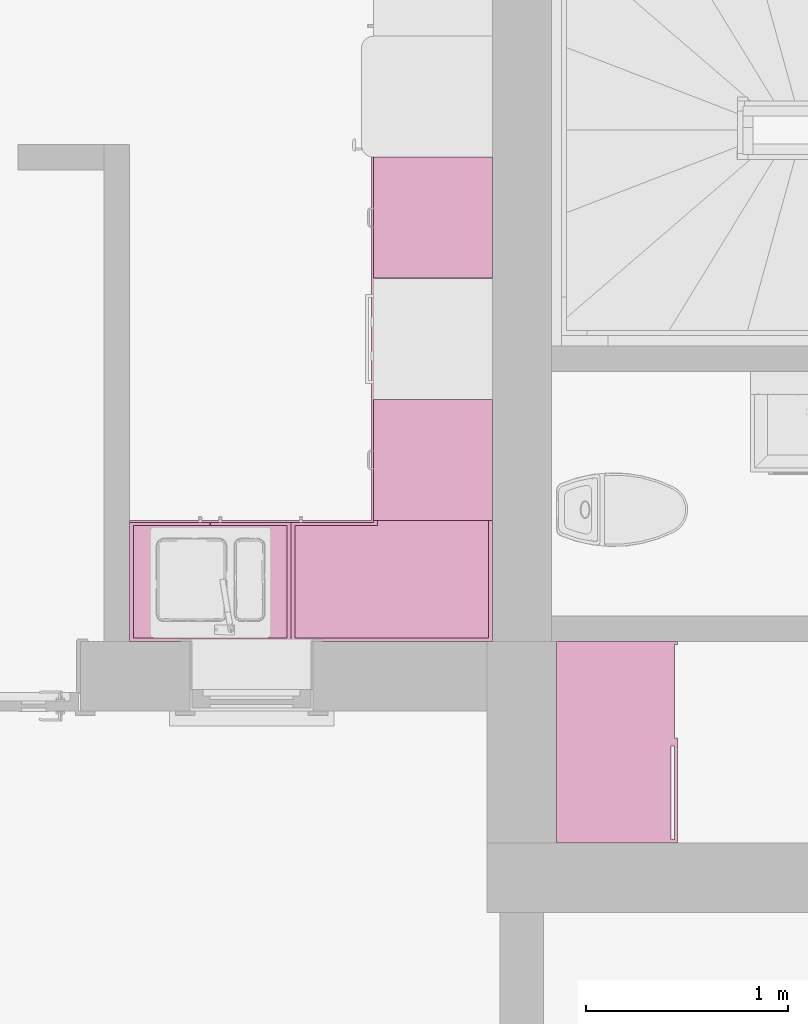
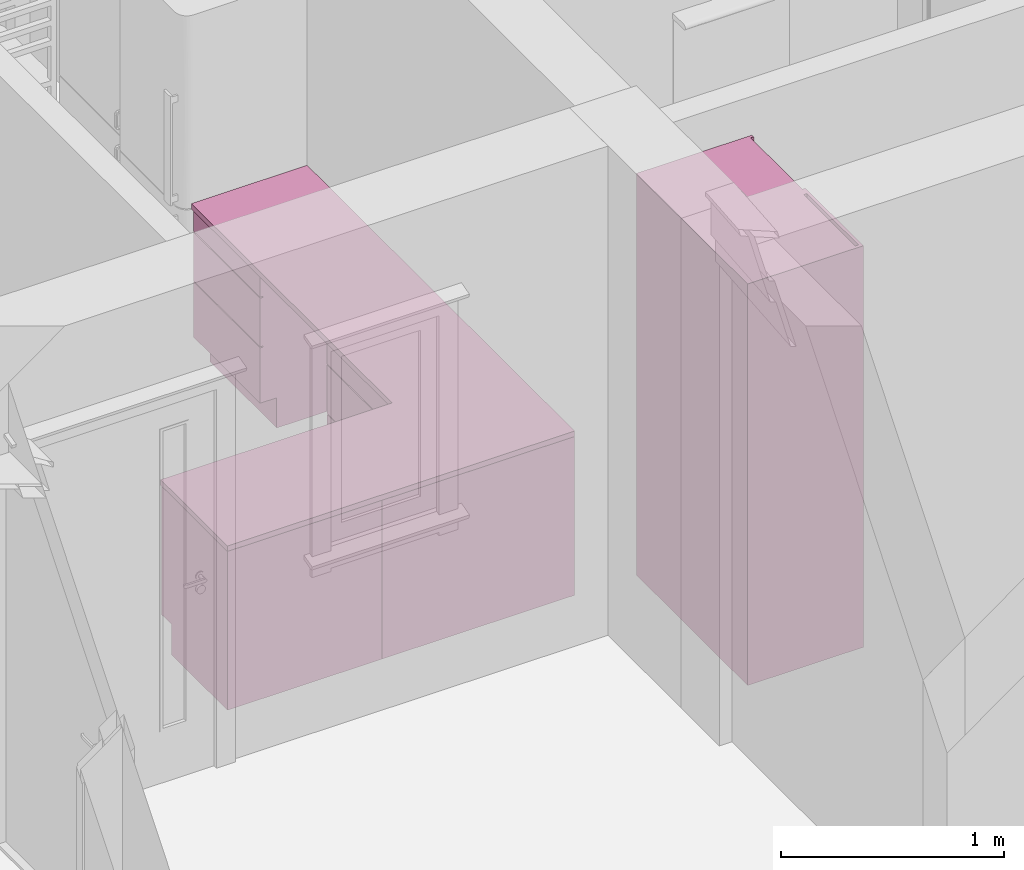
# One storey, part 34 of 65: 6 furnishings.
"""IFC2X3 building model written with IfcOpenShell, lengths in millimetres."""

import ifcopenshell
import ifcopenshell.guid

model = None  # the IFC model being written
_history = None  # IfcOwnerHistory: only IFC2X3 demands one
_inside = {}  # id of a spatial element -> (the spatial element, [elements in it])
_under = {}  # id of a project, library or spatial element -> (it, [spatial elements below it])
_declared = {}  # id of a project -> (the project, [libraries it declares])
_typed = {}  # id of a type object -> (the type object, [elements of that type])
_made_of = {}  # id of a material, layer set ... -> (it, [elements and type objects made of it])


def new_model(schema):
    """Start an empty IFC model of exactly this schema.

    Asked for "IFC4X3", IfcOpenShell would pick the latest addendum, in which some entities
    have other attributes; the version numbers below select the first issue.
    IFC2X3 requires an IfcOwnerHistory on every rooted entity: one is made here for all.
    """
    global model, _history
    if schema == "IFC4X3":
        model = ifcopenshell.file(schema_version=(4, 3, 0, 0))
    else:
        model = ifcopenshell.file(schema=schema)
    _inside.clear()
    _under.clear()
    _declared.clear()
    _typed.clear()
    _made_of.clear()
    _history = None
    if model.schema == "IFC2X3":
        org = make("IfcOrganization", Name="unknown")
        user = make(
            "IfcPersonAndOrganization",
            ThePerson=make("IfcPerson", FamilyName="unknown"),
            TheOrganization=org,
        )
        app = make(
            "IfcApplication",
            ApplicationDeveloper=org,
            Version="unknown",
            ApplicationFullName="unknown",
            ApplicationIdentifier="unknown",
        )
        _history = make(
            "IfcOwnerHistory",
            OwningUser=user,
            OwningApplication=app,
            ChangeAction="ADDED",
            CreationDate=0,
        )
    return model


def make(cls, **values):
    """One entity of the class cls with the attributes given. An attribute that is None is left unset."""
    return model.create_entity(
        cls, **{name: value for name, value in values.items() if value is not None}
    )


def entity(cls, *values):
    """Any entity or typed value of the class cls, its attributes in the order of the schema. None: left unset."""
    e = model.create_entity(cls)
    for i, value in enumerate(values):
        if value is not None:
            e[i] = value
    return e


def rooted(cls, **values):
    """An entity with a GlobalId (a new one), such as an element, a storey or a relation."""
    return make(cls, GlobalId=ifcopenshell.guid.new(), OwnerHistory=_history, **values)


def si_unit(unit_type, name, prefix=None):
    """IfcSIUnit, for example si_unit("LENGTHUNIT", "METRE", prefix="MILLI")."""
    return make("IfcSIUnit", UnitType=unit_type, Prefix=prefix, Name=name)


def converted_unit(unit_type, name, factor, base, dimensions=None, offset=None):
    """IfcConversionBasedUnit, such as the inch: factor (a typed value) times the base unit."""
    return make(
        "IfcConversionBasedUnit"
        if offset is None
        else "IfcConversionBasedUnitWithOffset",
        ConversionOffset=offset,
        Dimensions=None
        if dimensions is None
        else entity("IfcDimensionalExponents", *dimensions),
        UnitType=unit_type,
        Name=name,
        ConversionFactor=make(
            "IfcMeasureWithUnit", ValueComponent=factor, UnitComponent=base
        ),
    )


def assignment(units):
    """IfcUnitAssignment: the units of a project."""
    return None if units is None else make("IfcUnitAssignment", Units=units)


def point(xyz):
    """IfcCartesianPoint."""
    return None if xyz is None else make("IfcCartesianPoint", Coordinates=xyz)


def direction(xyz):
    """IfcDirection."""
    return None if xyz is None else make("IfcDirection", DirectionRatios=xyz)


def frame(location, z_axis=None, x_axis=None):
    """IfcAxis2Placement3D, a coordinate frame: its origin and axes. An axis left out is left unset."""
    return make(
        "IfcAxis2Placement3D",
        Location=point(location),
        Axis=direction(z_axis),
        RefDirection=direction(x_axis),
    )


def frame_2d(location, x_axis=None):
    """IfcAxis2Placement2D, a coordinate frame in the plane: its origin and x axis."""
    return make(
        "IfcAxis2Placement2D", Location=point(location), RefDirection=direction(x_axis)
    )


def origin():
    """The frame at (0, 0, 0) with its axes left unset."""
    return frame((0.0, 0.0, 0.0))


def place(relative_to, where):
    """IfcLocalPlacement: puts the frame where relative to a parent placement (None: the world)."""
    return make(
        "IfcLocalPlacement", PlacementRelTo=relative_to, RelativePlacement=where
    )


def context(
    kind, dimensions, precision=None, world=None, true_north=None, identifier=None
):
    """IfcGeometricRepresentationContext, for example the 3D "Model" context."""
    return make(
        "IfcGeometricRepresentationContext",
        ContextIdentifier=identifier,
        ContextType=kind,
        CoordinateSpaceDimension=dimensions,
        Precision=precision,
        WorldCoordinateSystem=world,
        TrueNorth=true_north,
    )


def subcontext(parent, identifier, kind, view, scale=None):
    """IfcGeometricRepresentationSubContext, for example "Body" below "Model"."""
    return make(
        "IfcGeometricRepresentationSubContext",
        ContextIdentifier=identifier,
        ContextType=kind,
        ParentContext=parent,
        TargetScale=scale,
        TargetView=view,
    )


def project(units=None, contexts=None):
    """IfcProject with its units and contexts."""
    return rooted(
        "IfcProject",
        Name="project",
        RepresentationContexts=contexts,
        UnitsInContext=assignment(units),
    )


def spatial(cls, under=None, at=None, **own):
    """A site, building, storey or space (cls), placed at a placement, below another one or the project."""
    s = rooted(cls, ObjectPlacement=at, **own)
    if under is not None:
        _under.setdefault(under.id(), (under, []))[1].append(s)
    return s


def polyline(points):
    """IfcPolyline through the points."""
    return make("IfcPolyline", Points=[point(p) for p in points])


def profile(cls, at=None, kind="AREA", **sizes):
    """A parametric profile (cls). Its sizes go by their IFC names, for example OverallWidth=200.0."""
    return make(cls, ProfileType=kind, Position=at, **sizes)


def rectangle(**sizes):
    """IfcRectangleProfileDef."""
    return profile("IfcRectangleProfileDef", **sizes)


def outline(outer, holes=None, kind="AREA"):
    """IfcArbitraryClosedProfileDef: a profile drawn as a closed curve; with holes, ...WithVoids."""
    if holes is None:
        return make("IfcArbitraryClosedProfileDef", ProfileType=kind, OuterCurve=outer)
    return make(
        "IfcArbitraryProfileDefWithVoids",
        ProfileType=kind,
        OuterCurve=outer,
        InnerCurves=holes,
    )


def extrude(swept, where, along, depth):
    """IfcExtrudedAreaSolid: the profile swept, set in the frame where, extruded along a direction by depth."""
    return make(
        "IfcExtrudedAreaSolid",
        SweptArea=swept,
        Position=where,
        ExtrudedDirection=direction(along),
        Depth=depth,
    )


def faces_of(points, faces, orient=None, outer=None):
    """IfcFace entities. A face is a list of loops; a loop is a list of indices into points, from 0.

    orient and outer hold one flag for each loop. By default every Orientation is true, the
    first loop of a face is its IfcFaceOuterBound and the others are IfcFaceBound.
    """
    made = []
    for i, loops in enumerate(faces):
        bounds = []
        for j, loop in enumerate(loops):
            is_outer = j == 0 if outer is None else outer[i][j]
            bounds.append(
                make(
                    "IfcFaceOuterBound" if is_outer else "IfcFaceBound",
                    Bound=make("IfcPolyLoop", Polygon=[points[k] for k in loop]),
                    Orientation=True if orient is None else orient[i][j],
                )
            )
        made.append(make("IfcFace", Bounds=bounds))
    return made


def faceted_brep(points, faces, orient=None, outer=None, voids=None):
    """IfcFacetedBrep: a solid bounded by flat faces; with voids (closed shells), ...WithVoids."""
    shared = [point(p) for p in points]
    hull = make("IfcClosedShell", CfsFaces=faces_of(shared, faces, orient, outer))
    if voids is None:
        return make("IfcFacetedBrep", Outer=hull)
    return make(
        "IfcFacetedBrepWithVoids",
        Outer=hull,
        Voids=[
            make(cls, CfsFaces=faces_of(shared, fs, o, b)) for cls, fs, o, b in voids
        ],
    )


def shape(context_of_items, identifier, shape_type, items):
    """IfcShapeRepresentation: the items that make up one representation, for example the "Body"."""
    return make(
        "IfcShapeRepresentation",
        ContextOfItems=context_of_items,
        RepresentationIdentifier=identifier,
        RepresentationType=shape_type,
        Items=items,
    )


def source(mapping_origin, context_of_items, identifier, shape_type, items):
    """IfcRepresentationMap: a shape defined once, which mapped items show again and again."""
    return make(
        "IfcRepresentationMap",
        MappingOrigin=mapping_origin,
        MappedRepresentation=shape(context_of_items, identifier, shape_type, items),
    )


def transform(
    local_origin,
    x_axis=None,
    y_axis=None,
    z_axis=None,
    scale=None,
    scale2=None,
    scale3=None,
    uniform=True,
):
    """IfcCartesianTransformationOperator3D, or its non-uniform kind. x_axis, y_axis, z_axis: its Axis1, 2, 3."""
    if uniform:
        return make(
            "IfcCartesianTransformationOperator3D",
            Axis1=direction(x_axis),
            Axis2=direction(y_axis),
            LocalOrigin=point(local_origin),
            Scale=scale,
            Axis3=direction(z_axis),
        )
    return make(
        "IfcCartesianTransformationOperator3DnonUniform",
        Axis1=direction(x_axis),
        Axis2=direction(y_axis),
        LocalOrigin=point(local_origin),
        Scale=scale,
        Axis3=direction(z_axis),
        Scale2=scale2,
        Scale3=scale3,
    )


def mapped(mapping_source, mapping_target):
    """IfcMappedItem: shows the shape of a source again, moved by a transform."""
    return make(
        "IfcMappedItem", MappingSource=mapping_source, MappingTarget=mapping_target
    )


def material(Name=None, Category=None):
    """IfcMaterial."""
    return make("IfcMaterial", Name=Name, Category=Category)


def material_list(materials):
    """IfcMaterialList."""
    return make("IfcMaterialList", Materials=materials)


def made_of(thing, what):
    """Note that an element or type object is made of a material, layer set ...; save() writes the relation."""
    if what is not None:
        _made_of.setdefault(what.id(), (what, []))[1].append(thing)
    return thing


def type_object(cls, material=None, **own):
    """A type object (cls), such as IfcWallType, which elements share."""
    return made_of(rooted(cls, **own), material)


def type_shapes(of_type, sources):
    """Give a type object the sources (RepresentationMaps) that its elements show as mapped items."""
    of_type.RepresentationMaps = sources


def element(
    cls,
    number,
    at=None,
    inside=None,
    cuts=None,
    type_object=None,
    material=None,
    context=None,
    identifier="Body",
    shape_type=None,
    held_by="IfcProductDefinitionShape",
    body=None,
    shapes=None,
    **own,
):
    """One element of the class cls, such as IfcWall. Its Tag is "e" and its number.

    at: its placement. inside: the storey or other place that contains it. cuts: it is an
    opening in that element (IfcRelVoidsElement). A single representation is given by context,
    identifier, shape_type and body (its items); several are given by shapes. held_by: the class
    of the entity that holds the representations. save() writes the other relations.
    """
    e = rooted(cls, Tag="e%d" % number, ObjectPlacement=at, **own)
    if body is not None:
        shapes = [shape(context, identifier, shape_type, body)]
    if shapes is not None:
        e.Representation = make(held_by, Representations=shapes)
    if inside is not None:
        _inside.setdefault(inside.id(), (inside, []))[1].append(e)
    if cuts is not None:
        rooted(
            "IfcRelVoidsElement", RelatingBuildingElement=cuts, RelatedOpeningElement=e
        )
    if type_object is not None:
        _typed.setdefault(type_object.id(), (type_object, []))[1].append(e)
    return made_of(e, material)


def aggregate(whole, parts):
    """IfcRelAggregates: a whole, such as a stair, and the parts it consists of."""
    return rooted("IfcRelAggregates", RelatingObject=whole, RelatedObjects=parts)


def save(model, path):
    """Write the relations noted so far, then the file.

    IfcRelAggregates (storeys below a building ...), IfcRelContainedInSpatialStructure (elements
    in a storey), IfcRelDefinesByType, IfcRelAssociatesMaterial and IfcRelDeclares: one each for
    every whole, place, type object, material and project.
    """
    for whole, parts in _under.values():
        aggregate(whole, parts)
    for where, things in _inside.values():
        rooted(
            "IfcRelContainedInSpatialStructure",
            RelatedElements=things,
            RelatingStructure=where,
        )
    for kind, things in _typed.values():
        rooted("IfcRelDefinesByType", RelatedObjects=things, RelatingType=kind)
    for what, things in _made_of.values():
        rooted("IfcRelAssociatesMaterial", RelatedObjects=things, RelatingMaterial=what)
    for by, libraries in _declared.values():
        rooted("IfcRelDeclares", RelatingContext=by, RelatedDefinitions=libraries)
    model.write(path)


model = new_model("IFC2X3")

# Units and contexts
model_context = context("Model", 3, precision=0.01, world=origin(), true_north=direction((0.0, 1.0)))
body_context = subcontext(model_context, "Body", "Model", "MODEL_VIEW")
ifc_project = project(units=[si_unit("LENGTHUNIT", "METRE", prefix="MILLI"), si_unit("AREAUNIT", "SQUARE_METRE"), si_unit("VOLUMEUNIT", "CUBIC_METRE"), converted_unit("PLANEANGLEUNIT", "DEGREE", entity("IfcPlaneAngleMeasure", 0.017453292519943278), si_unit("PLANEANGLEUNIT", "RADIAN"), dimensions=[0, 0, 0, 0, 0, 0, 0])], contexts=[model_context])

# Site, building, storey, space
site_placement = place(None, origin())
site = spatial("IfcSite", under=ifc_project, at=site_placement, Name="Default", CompositionType="ELEMENT")
building_placement = place(site_placement, origin())
building = spatial("IfcBuilding", under=site, at=building_placement, CompositionType="ELEMENT")
storey_placement = place(building_placement, origin())
storey = spatial("IfcBuildingStorey", under=building, at=storey_placement, Name="Et. 1", CompositionType="ELEMENT", Elevation=0.0)
space_1_placement = place(storey_placement, origin())
space_1 = spatial("IfcSpace", under=storey, at=space_1_placement, Name="107", CompositionType="ELEMENT", InteriorOrExteriorSpace="INTERNAL")

# Furnishing
ifc_material_1 = material(Name="Møbler - Hvit")
furniture_type_1 = type_object("IfcFurnitureType", Name="Focus Garderobeskap - Skyvedører 2 slette:100x60x220", AssemblyPlace="NOTDEFINED", material=ifc_material_1)
shared_shape_1 = source(origin(), body_context, "Body", "SweptSolid", [
    extrude(rectangle(XDim=16.000000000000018, YDim=504.0000000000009, at=frame_2d((0.0, 4.263256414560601e-14), x_axis=(1.0, 0.0))), frame((232.0, 292.0, 10.0), z_axis=(0.0, 0.0, 1.0), x_axis=(0.0, 1.0, 0.0)), (0.0, 0.0, 1.0), 2189.9999999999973),
    extrude(rectangle(XDim=16.000000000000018, YDim=504.00000000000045, at=frame_2d((0.0, 4.263256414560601e-14), x_axis=(1.0, 0.0))), frame((-232.0, 276.0, 10.0), z_axis=(0.0, 0.0, 1.0), x_axis=(0.0, 1.0, 0.0)), (0.0, 0.0, 1.0), 2189.9999999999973),
    extrude(outline(polyline([(-442.0, -500.0), (158.0, -500.0), (158.0, -484.0), (126.0, -484.0), (126.0, 484.0), (158.0, 484.0), (158.0, 500.0), (-442.0, 500.0), (-442.0, -500.0)])), frame((0.0, 142.0, 0.0), z_axis=(0.0, 0.0, 1.0), x_axis=(0.0, 1.0, 0.0)), (0.0, 0.0, 1.0), 2200.0000000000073),
])
type_shapes(furniture_type_1, [shared_shape_1])
furnishing_1_placement = place(space_1_placement, frame((16651.00958675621, 11254.180957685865, 0.0), z_axis=(0.0, 0.0, 1.0), x_axis=(0.0, -1.0, 0.0)))
element("IfcFurnishingElement", 1, at=furnishing_1_placement, inside=space_1, type_object=furniture_type_1, material=ifc_material_1, Name="Focus Garderobeskap - Skyvedører 2 slette:100x60x220", context=body_context, shape_type="MappedRepresentation", body=[
    mapped(shared_shape_1, transform((0.0, 0.0, 0.0), scale=1.0)),
])

# Space
space_2_placement = place(storey_placement, origin())
space_2 = spatial("IfcSpace", under=storey, at=space_2_placement, Name="101", CompositionType="ELEMENT", InteriorOrExteriorSpace="INTERNAL")

# Furnishings
ifc_material_2 = material(Name="Focus - Kjøkken - Front")
ifc_material_3 = material(Name="Focus - Kjøkken - Skapstamme")
ifc_material_list = material_list([ifc_material_2, ifc_material_3])
furniture_type_2 = type_object("IfcFurnitureType", Name="Focus - Kjøkken - Benkeskap 3 skuffer:600 mm", AssemblyPlace="NOTDEFINED", material=ifc_material_list)
shared_shape_2 = source(origin(), body_context, "Body", "SweptSolid", [
    extrude(rectangle(XDim=600.0, YDim=503.99999999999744, at=frame_2d((-2.842170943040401e-14, -2.842170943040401e-14), x_axis=(1.0, 0.0))), frame((-254.58506095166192, 499.8168112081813, 0.0), z_axis=(0.0, 0.0, 1.0), x_axis=(-1.0, 0.0, 0.0)), (0.0, 0.0, 1.0), 165.99999999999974),
    extrude(rectangle(XDim=16.000000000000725, YDim=600.0000000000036, at=frame_2d((0.0, 2.842170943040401e-14), x_axis=(1.0, 0.0))), frame((-254.58506095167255, 169.81681120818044, 747.0), z_axis=(0.0, 0.0, 1.0), x_axis=(0.0, -1.0, 0.0)), (0.0, 0.0, 1.0), 122.99999999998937),
    extrude(rectangle(XDim=16.000000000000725, YDim=600.0, at=frame_2d((0.0, 2.842170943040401e-14), x_axis=(1.0, 0.0))), frame((-254.58506095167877, 169.81681120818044, 166.0), z_axis=(0.0, 0.0, 1.0), x_axis=(0.0, -1.0, 0.0)), (0.0, 0.0, 1.0), 303.0000000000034),
    extrude(rectangle(XDim=16.000000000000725, YDim=599.9999999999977, at=frame_2d((0.0, 2.842170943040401e-14), x_axis=(1.0, 0.0))), frame((-254.58506095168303, 169.81681120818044, 475.0), z_axis=(0.0, 0.0, 1.0), x_axis=(0.0, -1.0, 0.0)), (0.0, 0.0, 1.0), 265.9999999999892),
    extrude(rectangle(XDim=573.9999999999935, YDim=599.9999999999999, at=frame_2d((-90.33333333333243, 2.842170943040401e-14), x_axis=(1.0, 0.0))), frame((-254.5850609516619, 555.1501445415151, 166.0), z_axis=(0.0, 0.0, 1.0), x_axis=(0.0, 1.0, 0.0)), (0.0, 0.0, 1.0), 704.0000000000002),
])
type_shapes(furniture_type_2, [shared_shape_2])
for number, where, z_axis, x_axis in (
    (2, (15280.192775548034, 12399.595896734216, 0.0), (0.0, 0.0, 1.0), (0.0, -1.0, 0.0)),
    (3, (15280.19277554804, 13601.473658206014, 0.0), (0.0, 0.0, 1.0), (0.0, -1.0, 0.0)),
):
    element("IfcFurnishingElement", number, at=place(space_2_placement, frame(where, z_axis=z_axis, x_axis=x_axis)), inside=space_2, type_object=furniture_type_2, material=ifc_material_list, Name="Focus - Kjøkken - Benkeskap 3 skuffer:600 mm", context=body_context, shape_type="MappedRepresentation", body=[
        mapped(shared_shape_2, transform((0.0, 0.0, 0.0), scale=1.0)),
    ])
furniture_type_3 = type_object("IfcFurnitureType", Name="Focus - Kjøkken - Benkeskap  2  dører:800 mm", AssemblyPlace="NOTDEFINED", material=ifc_material_list)
shared_shape_3 = source(origin(), body_context, "Body", "Brep", [
    faceted_brep([(145.41493904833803, 751.8168112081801, 166.0), (-654.5850609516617, 751.8168112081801, 166.0), (-654.5850609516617, 247.8168112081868, 166.0), (145.41493904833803, 247.8168112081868, 166.0), (145.41493904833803, 751.8168112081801, 0.0), (145.41493904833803, 247.8168112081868, 0.0), (-654.5850609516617, 247.8168112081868, 0.0), (-654.5850609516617, 751.8168112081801, 0.0)], [[[0, 1, 2, 3]], [[4, 5, 6, 7]], [[1, 0, 4, 7]], [[2, 1, 7, 6]], [[3, 2, 6, 5]], [[0, 3, 5, 4]]]),
    faceted_brep([(-253.58506095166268, 177.81681120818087, 870.0), (145.41493904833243, 177.8168112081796, 870.0), (145.41493904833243, 177.8168112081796, 166.0), (-253.58506095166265, 177.81681120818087, 166.0), (-253.58506095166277, 161.81681120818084, 870.0), (-253.5850609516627, 161.81681120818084, 166.0), (145.41493904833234, 161.81681120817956, 166.0), (145.41493904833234, 161.81681120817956, 870.0)], [[[0, 1, 2, 3]], [[4, 5, 6, 7]], [[1, 0, 4, 7]], [[2, 1, 7, 6]], [[3, 2, 6, 5]], [[0, 3, 5, 4]]]),
    faceted_brep([(-255.58506095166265, 177.81681120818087, 166.0), (-255.58506095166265, 177.81681120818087, 870.0), (-255.5850609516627, 161.81681120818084, 870.0), (-255.5850609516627, 161.81681120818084, 166.0), (-654.5850609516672, 177.81681120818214, 166.0), (-654.5850609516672, 161.81681120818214, 166.0), (-654.5850609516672, 177.81681120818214, 870.0), (-654.5850609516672, 161.81681120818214, 870.0)], [[[0, 1, 2, 3]], [[4, 0, 3, 5]], [[6, 4, 5, 7]], [[1, 6, 7, 2]], [[2, 7, 5, 3]], [[1, 0, 4, 6]]]),
    faceted_brep([(-654.5850609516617, 177.81681120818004, 870.0), (-654.5850609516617, 177.81681120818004, 166.0), (145.41493904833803, 177.81681120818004, 166.0), (145.41493904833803, 177.81681120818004, 870.0), (125.41493904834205, 177.81681120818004, 870.0), (125.41493904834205, 177.81681120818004, 186.0), (-634.5850609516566, 177.81681120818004, 186.0), (-634.5850609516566, 177.81681120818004, 870.0), (145.41493904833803, 751.8168112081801, 870.0), (145.41493904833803, 751.8168112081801, 166.0), (-654.5850609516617, 751.8168112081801, 166.0), (-654.5850609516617, 751.8168112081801, 870.0), (-654.5850609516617, 735.8168112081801, 166.0), (145.41493904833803, 735.8168112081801, 166.0), (-634.5850609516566, 735.8168112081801, 870.0), (125.41493904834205, 735.8168112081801, 870.0), (125.41493904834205, 735.8168112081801, 186.0), (-634.5850609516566, 735.8168112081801, 186.0)], [[[0, 1, 2, 3, 4, 5, 6, 7]], [[8, 9, 10, 11]], [[1, 0, 11, 10, 12]], [[2, 1, 12, 10, 9, 13]], [[8, 3, 2, 13, 9]], [[4, 3, 8, 11, 0, 7, 14, 15]], [[5, 4, 15, 16]], [[6, 5, 16, 17]], [[7, 6, 17, 14]], [[15, 14, 17, 16]]]),
])
type_shapes(furniture_type_3, [shared_shape_3])
furnishing_2_placement = place(space_2_placement, frame((14377.424525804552, 12505.997768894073, 0.0), z_axis=(0.0, 0.0, 1.0), x_axis=(-1.0, 0.0, 0.0)))
element("IfcFurnishingElement", 4, at=furnishing_2_placement, inside=space_2, type_object=furniture_type_3, material=ifc_material_list, Name="Focus - Kjøkken - Benkeskap  2  dører:800 mm", context=body_context, shape_type="MappedRepresentation", body=[
    mapped(shared_shape_3, transform((0.0, 0.0, 0.0), scale=1.0)),
])
furniture_type_4 = type_object("IfcFurnitureType", Name="Focus - Kjøkken - Benkeskap  Hjørne:1000x650 mm", AssemblyPlace="NOTDEFINED", material=ifc_material_list)
shared_shape_4 = source(origin(), body_context, "Body", "Brep", [
    faceted_brep([(-7.185060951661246, 751.8168112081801, 166.0), (-1007.1850609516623, 751.8168112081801, 166.0), (-1007.1850609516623, 101.81681120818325, 166.0), (-503.1850609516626, 101.81681120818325, 166.0), (-503.1850609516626, 247.81681120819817, 166.0), (-7.185060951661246, 247.81681120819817, 166.0), (-7.185060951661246, 751.8168112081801, 0.0), (-7.185060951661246, 247.81681120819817, 0.0), (-503.1850609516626, 247.81681120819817, 0.0), (-503.1850609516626, 101.81681120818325, 0.0), (-1007.1850609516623, 101.81681120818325, 0.0), (-1007.1850609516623, 751.8168112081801, 0.0)], [[[0, 1, 2, 3, 4, 5]], [[6, 7, 8, 9, 10, 11]], [[1, 0, 6, 11]], [[2, 1, 11, 10]], [[3, 2, 10, 9]], [[4, 3, 9, 8]], [[5, 4, 8, 7]], [[0, 5, 7, 6]]]),
    faceted_brep([(-7.18506095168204, 177.81681120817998, 870.0), (-7.185060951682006, 177.81681120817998, 166.0), (-392.18506095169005, 177.8168112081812, 166.0), (-392.1850609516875, 177.8168112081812, 870.0), (-7.185060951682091, 161.81681120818, 870.0), (-392.18506095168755, 161.8168112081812, 870.0), (-392.1850609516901, 161.8168112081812, 166.0), (-7.185060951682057, 161.81681120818, 166.0)], [[[0, 1, 2, 3]], [[4, 5, 6, 7]], [[1, 0, 4, 7]], [[2, 1, 7, 6]], [[3, 2, 6, 5]], [[0, 3, 5, 4]]]),
    faceted_brep([(-7.185060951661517, 177.81681120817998, 166.0), (-7.185060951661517, 177.81681120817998, 870.0), (-27.18506095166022, 177.81681120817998, 870.0), (-27.18506095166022, 177.81681120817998, 190.0), (-392.1850609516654, 177.81681120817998, 190.0), (-392.1850609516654, 177.81681120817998, 166.0), (-7.185060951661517, 751.8168112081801, 870.0), (-7.185060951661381, 751.8168112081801, 166.0), (-1007.185060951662, 751.8168112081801, 166.0), (-1007.1850609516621, 751.8168112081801, 870.0), (-1007.1850609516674, 101.81681120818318, 870.0), (-417.18506095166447, 101.81681120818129, 870.0), (-417.1850609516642, 161.81681120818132, 870.0), (-392.18506095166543, 161.81681120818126, 870.0), (-392.1850609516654, 177.81681120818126, 870.0), (-437.18506095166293, 177.8168112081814, 870.0), (-437.18506095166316, 117.81681120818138, 870.0), (-987.1850609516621, 117.81681120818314, 870.0), (-987.1850609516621, 735.8168112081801, 870.0), (-27.18506095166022, 735.8168112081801, 870.0), (-1007.185060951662, 101.81681120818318, 166.0), (-392.1850609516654, 161.81681120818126, 166.0), (-417.1850609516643, 161.81681120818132, 166.0), (-417.18506095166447, 101.81681120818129, 166.0), (-27.185060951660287, 735.8168112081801, 190.0), (-987.1850609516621, 735.8168112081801, 190.0), (-987.1850609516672, 117.81681120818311, 190.0), (-437.1850609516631, 117.81681120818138, 190.0), (-437.18506095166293, 177.8168112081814, 190.0)], [[[0, 1, 2, 3, 4, 5]], [[6, 7, 8, 9]], [[2, 1, 6, 9, 10, 11, 12, 13, 14, 15, 16, 17, 18, 19]], [[9, 8, 20, 10]], [[8, 7, 0, 5, 21, 22, 23, 20]], [[1, 0, 7, 6]], [[3, 2, 19, 24]], [[3, 24, 25, 26, 27, 28, 4]], [[25, 18, 17, 26]], [[19, 18, 25, 24]], [[28, 15, 14, 4]], [[10, 20, 23, 11]], [[15, 28, 27, 16]], [[11, 23, 22, 12]], [[17, 16, 27, 26]], [[13, 12, 22, 21]], [[13, 21, 5, 4, 14]]]),
])
type_shapes(furniture_type_4, [shared_shape_4])
furnishing_3_placement = place(space_2_placement, frame((15024.824525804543, 12505.99776889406, 0.0), z_axis=(0.0, 0.0, 1.0), x_axis=(-1.0, 0.0, 0.0)))
element("IfcFurnishingElement", 5, at=furnishing_3_placement, inside=space_2, type_object=furniture_type_4, material=ifc_material_list, Name="Focus - Kjøkken - Benkeskap  Hjørne:1000x650 mm", context=body_context, shape_type="MappedRepresentation", body=[
    mapped(shared_shape_4, transform((0.0, 0.0, 0.0), scale=1.0)),
])
ifc_material_4 = material(Name="Focus - Material - Benkeplate")
furniture_type_5 = type_object("IfcFurnitureType", Name="Focus - Kjøkken - Benkeplate Hjørne:Focus - Kjøkken - Benkeplate Hjørne", AssemblyPlace="NOTDEFINED", material=ifc_material_4)
shared_shape_5 = source(origin(), body_context, "Body", "SweptSolid", [
    extrude(outline(polyline([(-1000.6259204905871, -800.0), (1401.251840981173, -800.0), (1401.251840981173, -200.0), (-400.6259204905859, -200.0), (-400.6259204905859, 1000.0), (-1000.6259204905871, 1000.0), (-1000.6259204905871, -800.0)])), frame((799.3740795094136, -800.0, 870.0), z_axis=(0.0, 0.0, 1.0), x_axis=(-1.0, 0.0, 0.0)), (0.0, 0.0, 1.0), 29.999999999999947),
])
type_shapes(furniture_type_5, [shared_shape_5])
furnishing_4_placement = place(space_2_placement, frame((16032.009586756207, 13554.180957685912, 0.0), z_axis=(0.0, 0.0, 1.0), x_axis=(0.0, -1.0, 0.0)))
element("IfcFurnishingElement", 6, at=furnishing_4_placement, inside=space_2, type_object=furniture_type_5, material=ifc_material_4, Name="Focus - Kjøkken - Benkeplate Hjørne:Focus - Kjøkken - Benkeplate Hjørne", context=body_context, shape_type="MappedRepresentation", body=[
    mapped(shared_shape_5, transform((0.0, 0.0, 0.0), scale=1.0)),
])

save(model, "model.ifc")
